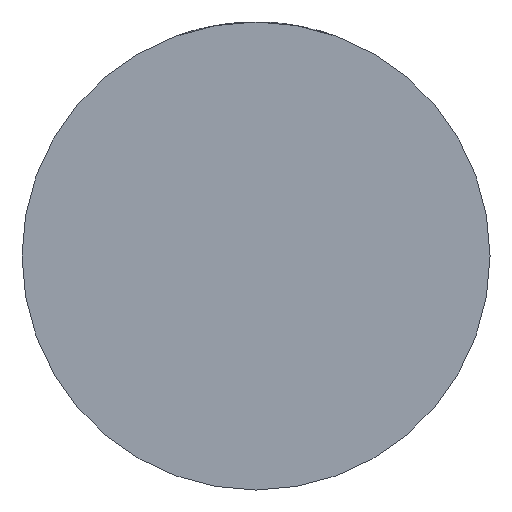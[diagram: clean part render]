
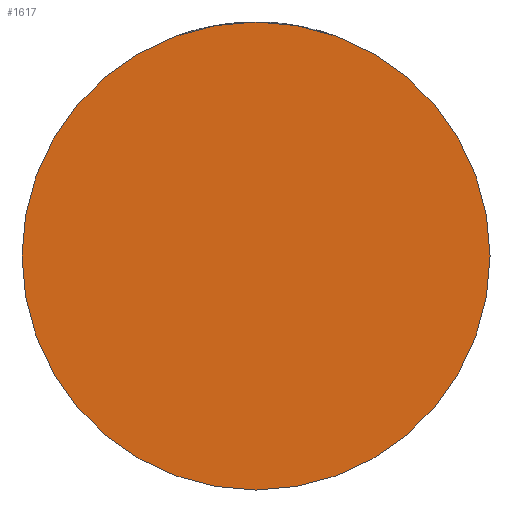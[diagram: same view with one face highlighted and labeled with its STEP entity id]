
A CAD part, front view. The second image highlights one B-rep face of the part: STEP entity #1617.
In plain terms, the highlighted planar face has unit normal (0, -1, 0).
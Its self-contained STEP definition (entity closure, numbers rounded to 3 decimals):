
#69 = CARTESIAN_POINT ( 'NONE',  ( 0., -29., 0. ) ) ;
#75 = EDGE_CURVE ( 'NONE', #1555, #3359, #311, .T. ) ;
#311 = CIRCLE ( 'NONE', #2501, 44. ) ;
#833 = DIRECTION ( 'NONE',  ( 1., 0., 0. ) ) ;
#1393 = DIRECTION ( 'NONE',  ( 1., 0., 0. ) ) ;
#1405 = CARTESIAN_POINT ( 'NONE',  ( -44., -29., 0. ) ) ;
#1555 = VERTEX_POINT ( 'NONE', #1405 ) ;
#1617 = ADVANCED_FACE ( 'NONE', ( #1775 ), #2796, .T. ) ;
#1775 = FACE_OUTER_BOUND ( 'NONE', #3203, .T. ) ;
#1791 = DIRECTION ( 'NONE',  ( 0., -1., 0. ) ) ;
#1876 = CARTESIAN_POINT ( 'NONE',  ( 0., -29., 0. ) ) ;
#1906 = CIRCLE ( 'NONE', #2500, 44. ) ;
#2500 = AXIS2_PLACEMENT_3D ( 'NONE', #1876, #3955, #833 ) ;
#2501 = AXIS2_PLACEMENT_3D ( 'NONE', #69, #1791, #1393 ) ;
#2796 = PLANE ( 'NONE',  #4319 ) ;
#2942 = ORIENTED_EDGE ( 'NONE', *, *, #3768, .T. ) ;
#3195 = CARTESIAN_POINT ( 'NONE',  ( 0., -29., 0. ) ) ;
#3203 = EDGE_LOOP ( 'NONE', ( #3385, #2942 ) ) ;
#3359 = VERTEX_POINT ( 'NONE', #4501 ) ;
#3385 = ORIENTED_EDGE ( 'NONE', *, *, #75, .T. ) ;
#3558 = DIRECTION ( 'NONE',  ( 0., -1., 0. ) ) ;
#3768 = EDGE_CURVE ( 'NONE', #3359, #1555, #1906, .T. ) ;
#3955 = DIRECTION ( 'NONE',  ( 0., -1., 0. ) ) ;
#4192 = DIRECTION ( 'NONE',  ( 1., 0., 0. ) ) ;
#4319 = AXIS2_PLACEMENT_3D ( 'NONE', #3195, #3558, #4192 ) ;
#4501 = CARTESIAN_POINT ( 'NONE',  ( 44., -29., 0. ) ) ;
